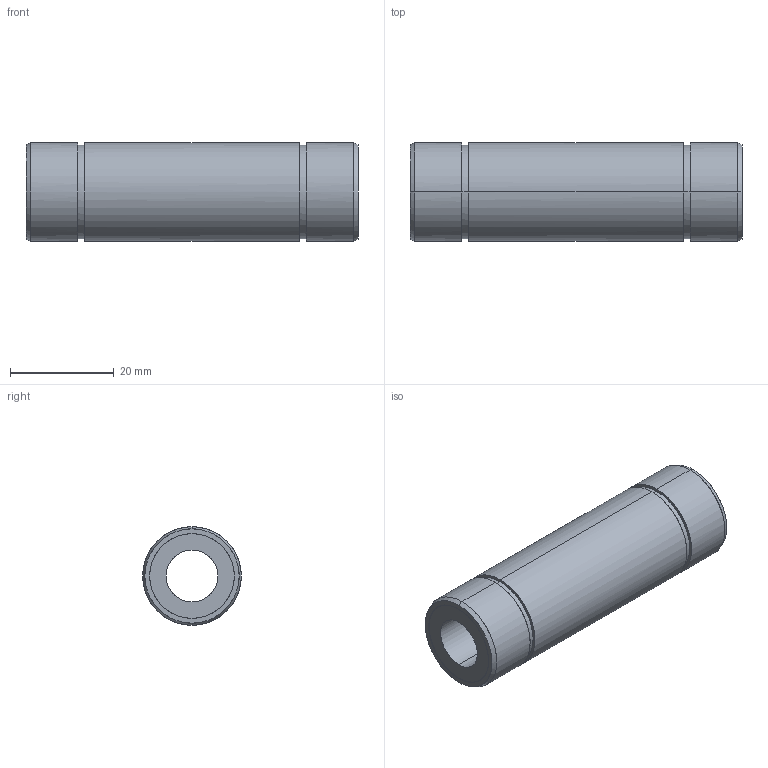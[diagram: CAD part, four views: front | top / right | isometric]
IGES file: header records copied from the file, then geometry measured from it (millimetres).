
Global section: file name: No Iges File Name specified; native system: AutoDesk Inventor R10; preprocessor: AutoDesk Inventor Iges Exporter R10; author: No Author specified; organization: No Organization specified; date: 20101216.152702; units: millimetre
Bounding box: 64 x 19 x 19 mm (x, y, z)
Surface area: 6313.8 mm2 (no closed solid volume)
Topology: 0 solids, 0 shells, 28 faces, 184 edges, 184 vertices
Faces by surface type: bspline 28
